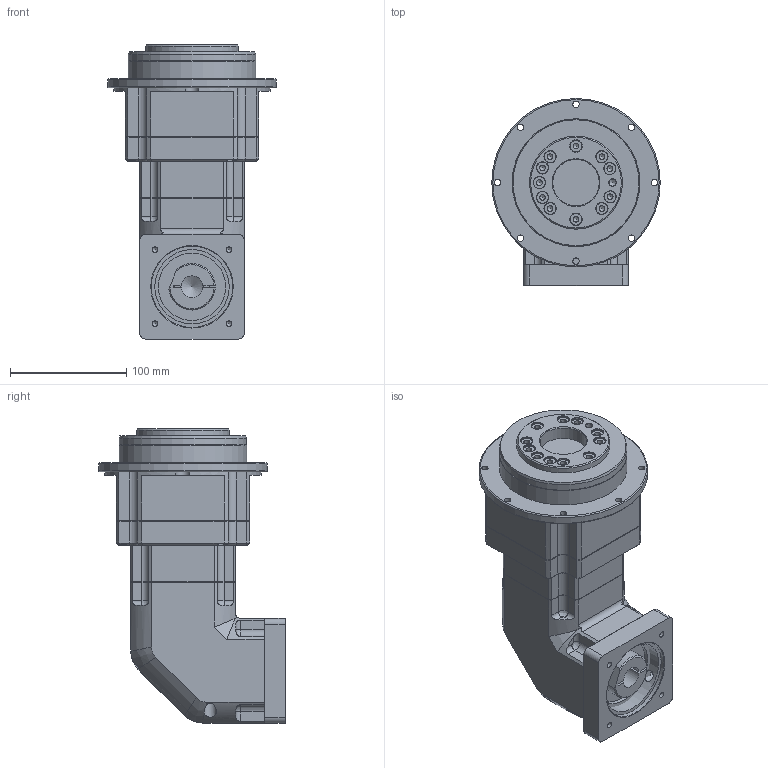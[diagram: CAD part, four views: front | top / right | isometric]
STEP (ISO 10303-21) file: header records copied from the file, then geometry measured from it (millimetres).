
FILE_DESCRIPTION((''),'2;1');
FILE_NAME('\\Autocad_1\업무관리(연구2부)\연구2부 1팀(유성팀)\유성감속기 부문 자료\04 참고자료(공통)\03 교육, 홍보자료\01 전시회, 홈페이지, 카다록, 선정프로그램 자료\02. 홈페이지 자료\09. SPLFD 도면\SPLF115DS2010-05-28T18:18:31','2010-05-28T18:18:31',('augold'),(''),'Autodesk Inventor 2010','Autodesk Inventor 2010','');
FILE_SCHEMA(('AUTOMOTIVE_DESIGN { 1 0 10303 214 1 1 1 1 }'));
Length unit declared in the file: millimetre
Products named in the file (6): SPLF115DS025~50FA; SPIF115; CARRIER CASE; DOWN ADAPTER; SPL090 GEARCASE; 90각 INPUT ADAPTER FLANGE_1
Assembly tree (5 placements, depth 2):
  SPLF115DS025~50FA
    SPIF115
    CARRIER CASE
    DOWN ADAPTER
    SPL090 GEARCASE
    90각 INPUT ADAPTER FLANGE_1
Bounding box: 145 x 160.6 x 253.1 mm (x, y, z)
Volume: 2215491.5 mm3; surface area: 237794.8 mm2
Topology: 5 solids, 5 shells, 469 faces, 1143 edges, 711 vertices
Faces by surface type: plane 195, cylinder 162, cone 98, bspline 12, torus 2
Full cylindrical faces by diameter (mm): 4.917 x15, 5.5 x12, 6 x1, 6.6 x4, 8.5 x1, 9.5 x4, 10 x12, 11 x4, 12 x1, 15 x1, 19 x1, 30 x1, 40 x1, 54 x1, 58 x1, 62 x2, 64 x1, 68 x1, 70 x1, 76 x1, 80 x2, 109.4 x1, 110 x1, 145 x1
Entity records: 13983 total; most frequent: CARTESIAN_POINT 3337, DIRECTION 2231, ORIENTED_EDGE 1974, EDGE_CURVE 987, AXIS2_PLACEMENT_3D 906, VERTEX_POINT 664, EDGE_LOOP 643, FACE_OUTER_BOUND 469
